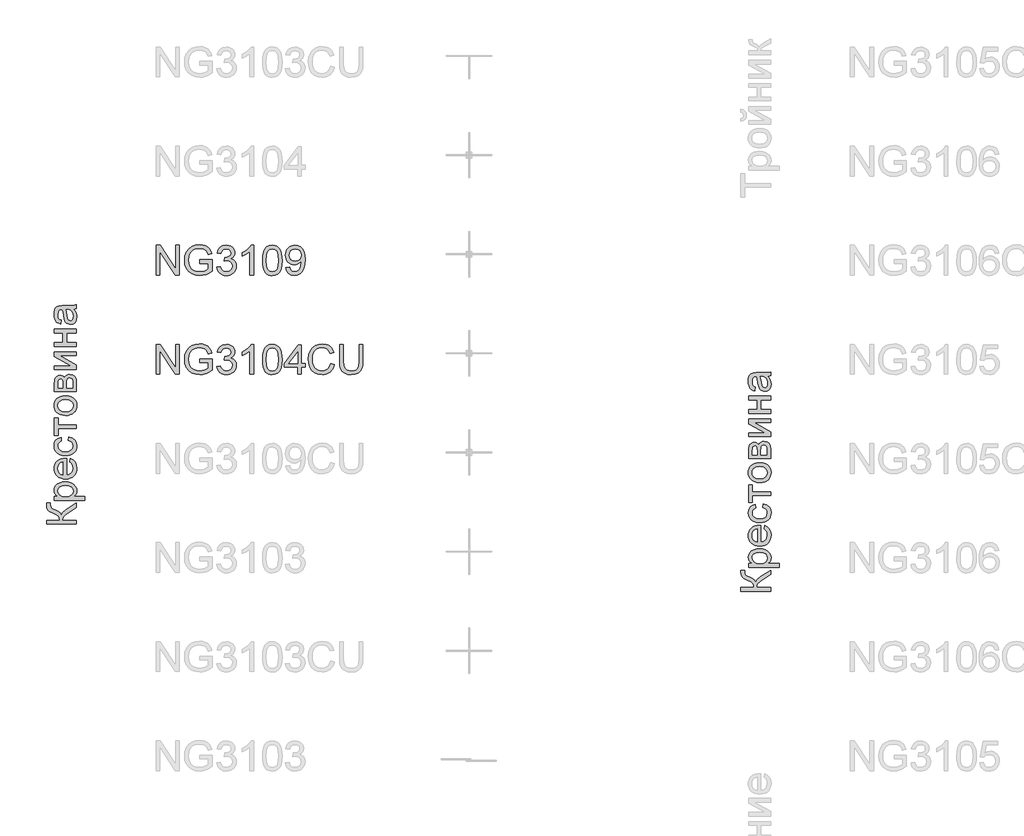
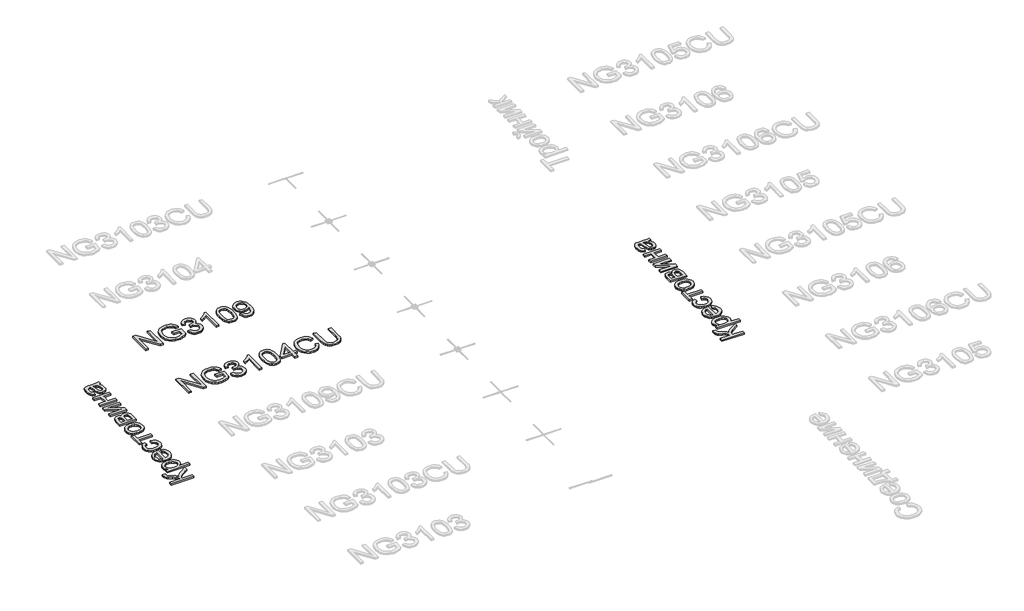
# One storey, part 118 of 124: 4 proxies.
"""IFC4 building model written with IfcOpenShell, lengths in millimetres."""

from ifc_helpers import new_model, si_unit, origin, origin_with_axes, place, context, project, spatial, polyline, outline, extrude, element, save

model = new_model("IFC4")

# Units and contexts
model_context = context("Model", 3, world=origin())
ifc_project = project(units=[si_unit("LENGTHUNIT", "METRE", prefix="MILLI")], contexts=[model_context])

# Site, building, storey
site = spatial("IfcSite", under=ifc_project)
building = spatial("IfcBuilding", under=site)
storey = spatial("IfcBuildingStorey", under=building, Name="Этаж 01", Elevation=0.0)

# Proxies
placement = place(None, origin())
element("IfcBuildingElementProxy", 1, Name="300", ObjectType="300", at=placement, inside=storey, context=model_context, shape_type="SweptSolid", body=[
    extrude(outline(polyline([(55595.8073128, -15708.4503527), (55595.8073128, -15670.7792364), (55727.6562199, -15670.7792364), (55725.1638193, -15645.2758171), (55717.6866178, -15628.6567479), (55700.0926614, -15615.2198581), (55667.2499962, -15599.2629765), (55625.1275078, -15578.4776438), (55613.7139689, -15568.4528594), (55604.2685987, -15554.9331961), (55597.9226343, -15538.8843441), (55595.8073128, -15521.2719935), (55596.2487712, -15496.5503235), (55633.9198875, -15496.5503235), (55633.6991583, -15504.8644566), (55633.4784291, -15513.1785897), (55635.7409034, -15530.4322552), (55642.5283262, -15542.6091493), (55656.7837535, -15553.0937861), (55681.3030885, -15564.9763746), (55711.8372941, -15579.5536986), (55728.5391366, -15591.6478192), (55744.1373332, -15617.6570763), (55750.3453419, -15603.0659566), (55761.1702696, -15588.5760046), (55796.6708822, -15559.899603), (55897.1762432, -15496.5503235), (55897.1762432, -15540.2547045), (55812.2690787, -15593.818323), (55785.0366141, -15614.5024882), (55767.9392983, -15631.5262275), (55758.9169924, -15648.9362429), (55755.9095571, -15670.7792364), (55897.1762432, -15670.7792364), (55897.1762432, -15708.4503527), (55595.8073128, -15708.4503527)])), origin_with_axes(), (0.0, 0.0, 1.0), 20.0),
    extrude(outline(polyline([(55981.9362549, -15468.2969862), (55675.8584349, -15468.2969862), (55675.8584349, -15430.6258699), (55712.7937873, -15430.6258699), (55694.5744314, -15418.3386113), (55681.5606059, -15404.5798247), (55673.7523105, -15388.5401697), (55671.1495454, -15369.4103059), (55674.7915772, -15343.9344778), (55685.7176724, -15321.659223), (55703.2656436, -15303.5226406), (55726.7733031, -15290.4628298), (55754.5299996, -15282.571761), (55784.8250819, -15279.9414047), (55817.0423476, -15282.9120518), (55845.8567049, -15291.8239932), (55869.8058228, -15306.3921202), (55887.4273704, -15326.3313243), (55898.2706922, -15349.5538752), (55901.8851328, -15373.9720427), (55899.4663087, -15391.2900876), (55892.2098363, -15406.7503284), (55881.2561499, -15419.9848832), (55867.7456836, -15430.6258699), (55981.9362549, -15430.6258699), (55981.9362549, -15468.2969862)]), holes=[polyline([(55788.2831727, -15430.6258699), (55822.0547398, -15426.5515768), (55845.6727639, -15414.3286975), (55859.5787033, -15396.2932827), (55864.2140165, -15374.7813831), (55859.4131564, -15352.9199955), (55845.0105763, -15334.4247282), (55820.5280295, -15321.8155728), (55785.4872695, -15317.612521), (55751.8996433, -15321.7144053), (55727.9505255, -15334.020058), (55713.6031276, -15352.0278817), (55708.8206617, -15373.2362787), (55713.9066303, -15394.5274492), (55729.164536, -15413.2250516), (55754.1161324, -15426.2756653), (55788.2831727, -15430.6258699)])]), origin_with_axes(), (0.0, 0.0, 1.0), 20.0),
    extrude(outline(polyline([(55831.2517897, -15082.6095025), (55835.9606792, -15045.6741502), (55863.7909522, -15058.9822814), (55884.594679, -15080.2182695), (55897.5625193, -15108.9038681), (55901.8851328, -15144.5608305), (55900.0204309, -15167.9351328), (55894.4263253, -15188.7618522), (55885.102816, -15207.0409888), (55872.049903, -15222.7725427), (55855.6308697, -15235.4230848), (55836.2089996, -15244.4591863), (55813.7842927, -15249.8808472), (55788.3567491, -15251.6880675), (55762.066982, -15249.8624531), (55738.8950148, -15244.3856099), (55718.8408475, -15235.2575379), (55701.9044802, -15222.4782371), (55688.4491962, -15206.78807), (55678.8382791, -15188.9273991), (55673.0717288, -15168.8962245), (55671.1495454, -15146.6945461), (55673.0671303, -15125.2079383), (55678.819885, -15105.7768711), (55688.4078095, -15088.4013447), (55701.8309038, -15073.0813588), (55718.7304829, -15060.5756702), (55738.747862, -15051.6430356), (55761.883041, -15046.2834547), (55788.1360199, -15044.4969278), (55798.2895629, -15044.717657), (55798.2895629, -15214.0169512), (55826.4877179, -15207.4962428), (55847.2178683, -15192.3487017), (55859.9649794, -15170.4873141), (55864.2140165, -15143.8250665), (55862.2458478, -15123.7754978), (55856.3413418, -15106.8897142), (55846.1326164, -15093.1677158), (55831.2517897, -15082.6095025)]), holes=[polyline([(55760.6184466, -15214.0169512), (55760.6184466, -15082.1680441), (55740.7160307, -15087.2632097), (55726.4789975, -15097.2512059), (55713.2352456, -15119.213761), (55708.8206617, -15146.8416989), (55712.3431318, -15172.2347536), (55722.9105421, -15193.2316184), (55739.3824585, -15207.8273366), (55760.6184466, -15214.0169512)])]), origin_with_axes(), (0.0, 0.0, 1.0), 20.0),
    extrude(outline(polyline([(55817.1251211, -14865.5591253), (55821.8340106, -14827.888009), (55855.3388633, -14838.39104), (55880.6583417, -14858.127909), (55896.578435, -14885.2408121), (55901.8851328, -14917.8719451), (55900.0342265, -14938.9998679), (55894.4815076, -14957.9434914), (55885.2269762, -14974.7028155), (55872.2706322, -14989.2778403), (55855.8561974, -15001.0753561), (55836.2273937, -15009.502153), (55813.384221, -15014.5582312), (55787.3266795, -15016.2435906), (55753.8034327, -15013.364914), (55724.7499521, -15004.7288841), (55701.2882779, -14990.1975453), (55684.54045, -14969.6329418), (55674.4972716, -14945.0308334), (55671.1495454, -14918.3869798), (55675.7480703, -14886.5559902), (55689.5436452, -14861.1077532), (55711.8005059, -14842.8516092), (55741.7828885, -14832.5968986), (55746.491778, -14870.2680149), (55730.0566499, -14877.1014229), (55718.275229, -14887.7424097), (55711.1843035, -14901.6023638), (55708.8206617, -14918.0926743), (55713.4743689, -14942.4372653), (55727.4354907, -14961.7602671), (55751.4581849, -14974.3694225), (55786.2966099, -14978.5724743), (55821.6040844, -14974.461393), (55845.7095521, -14962.1281491), (55859.5879004, -14943.1546352), (55864.2140165, -14919.1227438), (55861.3261428, -14899.615801), (55852.6625218, -14883.6221313), (55838.0024243, -14871.9878632), (55817.1251211, -14865.5591253)])), origin_with_axes(), (0.0, 0.0, 1.0), 20.0),
    extrude(outline(polyline([(55675.8584349, -14813.7613404), (55675.8584349, -14634.823538), (55713.5295512, -14634.823538), (55713.5295512, -14705.456881), (55897.1762432, -14705.456881), (55897.1762432, -14743.1279973), (55713.5295512, -14743.1279973), (55713.5295512, -14813.7613404), (55675.8584349, -14813.7613404)])), origin_with_axes(), (0.0, 0.0, 1.0), 20.0),
    extrude(outline(polyline([(55786.5173391, -14611.2790903), (55757.8547331, -14609.2419437), (55733.1560557, -14603.1305041), (55712.4213067, -14592.9447713), (55695.6504863, -14578.6847455), (55684.9313246, -14564.3281506), (55677.2747806, -14548.4816337), (55672.6808542, -14531.1451947), (55671.1495454, -14512.3188336), (55673.0142473, -14491.5358001), (55678.6083529, -14472.7439279), (55687.9318622, -14455.9432171), (55700.9847752, -14441.1336675), (55717.3256336, -14429.0464447), (55736.5129789, -14420.4127141), (55758.5468111, -14415.2324758), (55783.4271303, -14413.5057297), (55821.4845227, -14416.5591502), (55850.4552298, -14425.7194119), (55872.1510705, -14440.7198003), (55888.3838636, -14461.2936008), (55898.5098155, -14485.7301624), (55901.8851328, -14512.3188336), (55900.0273287, -14533.4053697), (55894.4539165, -14552.3719858), (55885.1648961, -14569.2186819), (55872.1602676, -14583.945458), (55855.6607601, -14595.9039221), (55835.8871028, -14604.4456822), (55812.8392958, -14609.5707383), (55786.5173391, -14611.2790903)]), holes=[polyline([(55786.4437627, -14573.607974), (55820.5372266, -14569.2485723), (55844.8266353, -14556.1703674), (55859.3671712, -14536.4886807), (55864.2140165, -14512.3188336), (55859.33958, -14488.2593511), (55844.7162707, -14468.6144525), (55820.1049652, -14455.5362476), (55785.2665403, -14451.176846), (55752.1663578, -14455.5638388), (55728.2080429, -14468.7248171), (55713.667507, -14488.3973068), (55708.8206617, -14512.3188336), (55713.6491129, -14536.4886807), (55728.1344665, -14556.1703674), (55752.3686929, -14569.2485723), (55786.4437627, -14573.607974)])]), origin_with_axes(), (0.0, 0.0, 1.0), 20.0),
    extrude(outline(polyline([(55675.8584349, -14371.1257238), (55675.8584349, -14288.1315457), (55677.1184308, -14261.450904), (55680.8984183, -14242.6245429), (55688.035329, -14228.7737858), (55699.3660944, -14217.019956), (55714.1273595, -14208.9909315), (55731.555769, -14206.31459), (55745.5996642, -14207.9332708), (55757.7121789, -14212.7893131), (55767.9484954, -14220.9011111), (55776.363796, -14232.2870588), (55784.1904855, -14218.3443312), (55796.7812468, -14206.9767776), (55813.1427985, -14199.4168026), (55832.2818593, -14196.8968109), (55860.995049, -14203.2795635), (55881.2101646, -14218.4546958), (55893.1847236, -14242.4773901), (55897.1762432, -14275.4028287), (55897.1762432, -14371.1257238), (55675.8584349, -14371.1257238)]), holes=[polyline([(55760.6184466, -14333.4546075), (55760.6184466, -14296.2249496), (55758.7054603, -14265.506803), (55751.0535148, -14250.570794), (55744.7259444, -14245.6319782), (55737.2211517, -14243.9857063), (55725.9823568, -14246.87358), (55718.7534756, -14255.5372009), (55714.8355323, -14271.1905798), (55713.5295512, -14295.0477272), (55713.5295512, -14333.4546075), (55760.6184466, -14333.4546075)]), polyline([(55859.5051269, -14333.4546075), (55859.5051269, -14287.2486289), (55857.8036727, -14262.0671064), (55852.69931, -14246.2665747), (55843.4194867, -14237.7868947), (55829.1916505, -14234.5679272), (55819.7646744, -14236.1774109), (55811.0550682, -14241.0058621), (55804.2400542, -14248.4186843), (55800.4968549, -14257.7812811), (55798.2895629, -14290.9274489), (55798.2895629, -14333.4546075), (55859.5051269, -14333.4546075)])]), origin_with_axes(), (0.0, 0.0, 1.0), 20.0),
    extrude(outline(polyline([(55675.8584349, -14149.8079155), (55675.8584349, -14112.1367992), (55844.6426943, -14112.1367992), (55675.8584349, -14019.5776892), (55675.8584349, -13970.8701131), (55897.1762432, -13970.8701131), (55897.1762432, -14008.5412294), (55729.4220534, -14008.5412294), (55897.1762432, -14100.5117282), (55897.1762432, -14149.8079155), (55675.8584349, -14149.8079155)])), origin_with_axes(), (0.0, 0.0, 1.0), 20.0),
    extrude(outline(polyline([(55675.8584349, -13914.3634386), (55675.8584349, -13876.6923223), (55760.6184466, -13876.6923223), (55760.6184466, -13777.805642), (55675.8584349, -13777.805642), (55675.8584349, -13740.1345257), (55897.1762432, -13740.1345257), (55897.1762432, -13777.805642), (55798.2895629, -13777.805642), (55798.2895629, -13876.6923223), (55897.1762432, -13876.6923223), (55897.1762432, -13914.3634386), (55675.8584349, -13914.3634386)])), origin_with_axes(), (0.0, 0.0, 1.0), 20.0),
    extrude(outline(polyline([(55868.922906, -13542.3611651), (55884.3555557, -13560.3597917), (55894.4539165, -13578.8918472), (55900.0273287, -13598.3803959), (55901.8851328, -13619.2485021), (55897.4153665, -13650.7300038), (55884.0060678, -13673.9525548), (55863.6437994, -13688.2723614), (55838.315124, -13693.0456303), (55822.6985333, -13691.2430085), (55808.5166824, -13685.8351432), (55796.3765766, -13677.493419), (55786.8852211, -13666.8892205), (55774.524386, -13640.5120814), (55768.8590033, -13607.9177366), (55762.899315, -13569.4004917), (55755.9095571, -13542.5818943), (55747.5218476, -13542.3611651), (55730.7096404, -13544.9547332), (55719.7099688, -13552.7354374), (55711.5429885, -13570.1362557), (55708.8206617, -13594.3796792), (55710.6324805, -13616.8204809), (55716.067937, -13632.4922539), (55726.1203125, -13643.1792259), (55741.7828885, -13650.6656245), (55737.0739989, -13688.3367408), (55716.4726072, -13681.7976383), (55700.2857994, -13672.0395684), (55687.9065703, -13658.1520231), (55678.7279145, -13639.2244944), (55673.0441377, -13616.0755199), (55671.1495454, -13589.5236369), (55672.8234085, -13564.0570058), (55677.8449977, -13543.8694813), (55685.3957757, -13528.6483637), (55694.6572049, -13518.0809534), (55706.107532, -13511.0728014), (55720.2250036, -13506.5294588), (55753.1872303, -13504.6900488), (55800.0553965, -13504.6900488), (55865.5016035, -13502.7770624), (55897.1762432, -13495.2722697), (55897.1762432, -13532.943386), (55868.922906, -13542.3611651)]), holes=[polyline([(55793.5806734, -13542.3611651), (55805.132168, -13603.1352707), (55811.2390092, -13635.5456745), (55821.171823, -13650.2241661), (55835.6663736, -13655.374514), (55846.8683804, -13652.5694138), (55856.0470362, -13644.1541132), (55862.1722714, -13630.3125531), (55864.2140165, -13611.2286746), (55861.9607392, -13590.9951649), (55855.2009076, -13573.1160999), (55845.2405026, -13558.6215493), (55833.3855053, -13548.5415826), (55821.171823, -13544.0718164), (55804.2492513, -13542.5818943), (55793.5806734, -13542.3611651)])]), origin_with_axes(), (0.0, 0.0, 1.0), 20.0),
])
element("IfcBuildingElementProxy", 2, Name="300", ObjectType="300", at=placement, inside=storey, context=model_context, shape_type="SweptSolid", body=[
    extrude(outline(polyline([(48595.8073128, -15032.4753677), (48595.8073128, -14994.8042514), (48727.6562199, -14994.8042514), (48725.1638193, -14969.3008321), (48717.6866178, -14952.6817629), (48700.0926614, -14939.244873), (48667.2499962, -14923.2879915), (48625.1275078, -14902.5026588), (48613.7139689, -14892.4778744), (48604.2685987, -14878.9582111), (48597.9226343, -14862.9093591), (48595.8073128, -14845.2970085), (48596.2487712, -14820.5753385), (48633.9198875, -14820.5753385), (48633.6991583, -14828.8894715), (48633.4784291, -14837.2036046), (48635.7409034, -14854.4572702), (48642.5283262, -14866.6341643), (48656.7837535, -14877.1188011), (48681.3030885, -14889.0013896), (48711.8372941, -14903.5787136), (48728.5391366, -14915.6728342), (48744.1373332, -14941.6820913), (48750.3453419, -14927.0909716), (48761.1702696, -14912.6010195), (48796.6708822, -14883.924618), (48897.1762432, -14820.5753385), (48897.1762432, -14864.2797195), (48812.2690787, -14917.843338), (48785.0366141, -14938.5275032), (48767.9392983, -14955.5512425), (48758.9169924, -14972.9612579), (48755.9095571, -14994.8042514), (48897.1762432, -14994.8042514), (48897.1762432, -15032.4753677), (48595.8073128, -15032.4753677)])), origin_with_axes(), (0.0, 0.0, 1.0), 20.0),
    extrude(outline(polyline([(48981.9362549, -14792.3220012), (48675.8584349, -14792.3220012), (48675.8584349, -14754.6508849), (48712.7937873, -14754.6508849), (48694.5744314, -14742.3636263), (48681.5606059, -14728.6048397), (48673.7523105, -14712.5651847), (48671.1495454, -14693.4353209), (48674.7915772, -14667.9594928), (48685.7176724, -14645.6842379), (48703.2656436, -14627.5476556), (48726.7733031, -14614.4878448), (48754.5299996, -14606.596776), (48784.8250819, -14603.9664197), (48817.0423476, -14606.9370668), (48845.8567049, -14615.8490081), (48869.8058228, -14630.4171351), (48887.4273704, -14650.3563393), (48898.2706922, -14673.5788902), (48901.8851328, -14697.9970577), (48899.4663087, -14715.3151026), (48892.2098363, -14730.7753434), (48881.2561499, -14744.0098982), (48867.7456836, -14754.6508849), (48981.9362549, -14754.6508849), (48981.9362549, -14792.3220012)]), holes=[polyline([(48788.2831727, -14754.6508849), (48822.0547398, -14750.5765918), (48845.6727639, -14738.3537125), (48859.5787033, -14720.3182977), (48864.2140165, -14698.8063981), (48859.4131564, -14676.9450105), (48845.0105763, -14658.4497432), (48820.5280295, -14645.8405878), (48785.4872695, -14641.637536), (48751.8996433, -14645.7394202), (48727.9505255, -14658.045073), (48713.6031276, -14676.0528967), (48708.8206617, -14697.2612937), (48713.9066303, -14718.5524641), (48729.164536, -14737.2500665), (48754.1161324, -14750.3006803), (48788.2831727, -14754.6508849)])]), origin_with_axes(), (0.0, 0.0, 1.0), 20.0),
    extrude(outline(polyline([(48831.2517897, -14406.6345175), (48835.9606792, -14369.6991652), (48863.7909522, -14383.0072963), (48884.594679, -14404.2432845), (48897.5625193, -14432.9288831), (48901.8851328, -14468.5858455), (48900.0204309, -14491.9601477), (48894.4263253, -14512.7868672), (48885.102816, -14531.0660038), (48872.049903, -14546.7975576), (48855.6308697, -14559.4480998), (48836.2089996, -14568.4842013), (48813.7842927, -14573.9058622), (48788.3567491, -14575.7130825), (48762.066982, -14573.8874681), (48738.8950148, -14568.4106249), (48718.8408475, -14559.2825529), (48701.9044802, -14546.503252), (48688.4491962, -14530.813085), (48678.8382791, -14512.9524141), (48673.0717288, -14492.9212395), (48671.1495454, -14470.719561), (48673.0671303, -14449.2329533), (48678.819885, -14429.8018861), (48688.4078095, -14412.4263596), (48701.8309038, -14397.1063738), (48718.7304829, -14384.6006852), (48738.747862, -14375.6680505), (48761.883041, -14370.3084697), (48788.1360199, -14368.5219428), (48798.2895629, -14368.742672), (48798.2895629, -14538.0419662), (48826.4877179, -14531.5212578), (48847.2178683, -14516.3737166), (48859.9649794, -14494.5123291), (48864.2140165, -14467.8500815), (48862.2458478, -14447.8005127), (48856.3413418, -14430.9147292), (48846.1326164, -14417.1927307), (48831.2517897, -14406.6345175)]), holes=[polyline([(48760.6184466, -14538.0419662), (48760.6184466, -14406.1930591), (48740.7160307, -14411.2882247), (48726.4789975, -14421.2762209), (48713.2352456, -14443.238776), (48708.8206617, -14470.8667138), (48712.3431318, -14496.2597686), (48722.9105421, -14517.2566334), (48739.3824585, -14531.8523516), (48760.6184466, -14538.0419662)])]), origin_with_axes(), (0.0, 0.0, 1.0), 20.0),
    extrude(outline(polyline([(48817.1251211, -14189.5841403), (48821.8340106, -14151.913024), (48855.3388633, -14162.416055), (48880.6583417, -14182.152924), (48896.578435, -14209.2658271), (48901.8851328, -14241.89696), (48900.0342265, -14263.0248829), (48894.4815076, -14281.9685064), (48885.2269762, -14298.7278305), (48872.2706322, -14313.3028553), (48855.8561974, -14325.100371), (48836.2273937, -14333.527168), (48813.384221, -14338.5832462), (48787.3266795, -14340.2686056), (48753.8034327, -14337.3899289), (48724.7499521, -14328.7538991), (48701.2882779, -14314.2225603), (48684.54045, -14293.6579568), (48674.4972716, -14269.0558483), (48671.1495454, -14242.4119948), (48675.7480703, -14210.5810052), (48689.5436452, -14185.1327682), (48711.8005059, -14166.8766242), (48741.7828885, -14156.6219136), (48746.491778, -14194.2930299), (48730.0566499, -14201.1264379), (48718.275229, -14211.7674246), (48711.1843035, -14225.6273788), (48708.8206617, -14242.1176892), (48713.4743689, -14266.4622803), (48727.4354907, -14285.7852821), (48751.4581849, -14298.3944375), (48786.2966099, -14302.5974892), (48821.6040844, -14298.486408), (48845.7095521, -14286.1531641), (48859.5879004, -14267.1796502), (48864.2140165, -14243.1477588), (48861.3261428, -14223.640816), (48852.6625218, -14207.6471463), (48838.0024243, -14196.0128782), (48817.1251211, -14189.5841403)])), origin_with_axes(), (0.0, 0.0, 1.0), 20.0),
    extrude(outline(polyline([(48675.8584349, -14137.7863554), (48675.8584349, -13958.848553), (48713.5295512, -13958.848553), (48713.5295512, -14029.481896), (48897.1762432, -14029.481896), (48897.1762432, -14067.1530123), (48713.5295512, -14067.1530123), (48713.5295512, -14137.7863554), (48675.8584349, -14137.7863554)])), origin_with_axes(), (0.0, 0.0, 1.0), 20.0),
    extrude(outline(polyline([(48786.5173391, -13935.3041053), (48757.8547331, -13933.2669587), (48733.1560557, -13927.1555191), (48712.4213067, -13916.9697863), (48695.6504863, -13902.7097605), (48684.9313246, -13888.3531656), (48677.2747806, -13872.5066487), (48672.6808542, -13855.1702097), (48671.1495454, -13836.3438486), (48673.0142473, -13815.5608151), (48678.6083529, -13796.7689429), (48687.9318622, -13779.9682321), (48700.9847752, -13765.1586825), (48717.3256336, -13753.0714597), (48736.5129789, -13744.4377291), (48758.5468111, -13739.2574908), (48783.4271303, -13737.5307447), (48821.4845227, -13740.5841652), (48850.4552298, -13749.7444269), (48872.1510705, -13764.7448152), (48888.3838636, -13785.3186158), (48898.5098155, -13809.7551774), (48901.8851328, -13836.3438486), (48900.0273287, -13857.4303847), (48894.4539165, -13876.3970008), (48885.1648961, -13893.2436969), (48872.1602676, -13907.970473), (48855.6607601, -13919.9289371), (48835.8871028, -13928.4706972), (48812.8392958, -13933.5957532), (48786.5173391, -13935.3041053)]), holes=[polyline([(48786.4437627, -13897.632989), (48820.5372266, -13893.2735873), (48844.8266353, -13880.1953824), (48859.3671712, -13860.5136956), (48864.2140165, -13836.3438486), (48859.33958, -13812.2843661), (48844.7162707, -13792.6394675), (48820.1049652, -13779.5612626), (48785.2665403, -13775.201861), (48752.1663578, -13779.5888538), (48728.2080429, -13792.7498321), (48713.667507, -13812.4223218), (48708.8206617, -13836.3438486), (48713.6491129, -13860.5136956), (48728.1344665, -13880.1953824), (48752.3686929, -13893.2735873), (48786.4437627, -13897.632989)])]), origin_with_axes(), (0.0, 0.0, 1.0), 20.0),
    extrude(outline(polyline([(48675.8584349, -13695.1507388), (48675.8584349, -13612.1565607), (48677.1184308, -13585.475919), (48680.8984183, -13566.6495579), (48688.035329, -13552.7988008), (48699.3660944, -13541.044971), (48714.1273595, -13533.0159465), (48731.555769, -13530.339605), (48745.5996642, -13531.9582858), (48757.7121789, -13536.8143281), (48767.9484954, -13544.9261261), (48776.363796, -13556.3120738), (48784.1904855, -13542.3693462), (48796.7812468, -13531.0017926), (48813.1427985, -13523.4418176), (48832.2818593, -13520.9218259), (48860.995049, -13527.3045785), (48881.2101646, -13542.4797108), (48893.1847236, -13566.5024051), (48897.1762432, -13599.4278437), (48897.1762432, -13695.1507388), (48675.8584349, -13695.1507388)]), holes=[polyline([(48760.6184466, -13657.4796225), (48760.6184466, -13620.2499646), (48758.7054603, -13589.531818), (48751.0535148, -13574.595809), (48744.7259444, -13569.6569932), (48737.2211517, -13568.0107213), (48725.9823568, -13570.8985949), (48718.7534756, -13579.5622159), (48714.8355323, -13595.2155948), (48713.5295512, -13619.0727422), (48713.5295512, -13657.4796225), (48760.6184466, -13657.4796225)]), polyline([(48859.5051269, -13657.4796225), (48859.5051269, -13611.2736439), (48857.8036727, -13586.0921213), (48852.69931, -13570.2915896), (48843.4194867, -13561.8119097), (48829.1916505, -13558.5929422), (48819.7646744, -13560.2024259), (48811.0550682, -13565.0308771), (48804.2400542, -13572.4436993), (48800.4968549, -13581.8062961), (48798.2895629, -13614.9524639), (48798.2895629, -13657.4796225), (48859.5051269, -13657.4796225)])]), origin_with_axes(), (0.0, 0.0, 1.0), 20.0),
    extrude(outline(polyline([(48675.8584349, -13473.8329305), (48675.8584349, -13436.1618142), (48844.6426943, -13436.1618142), (48675.8584349, -13343.6027042), (48675.8584349, -13294.8951281), (48897.1762432, -13294.8951281), (48897.1762432, -13332.5662444), (48729.4220534, -13332.5662444), (48897.1762432, -13424.5367432), (48897.1762432, -13473.8329305), (48675.8584349, -13473.8329305)])), origin_with_axes(), (0.0, 0.0, 1.0), 20.0),
    extrude(outline(polyline([(48675.8584349, -13238.3884536), (48675.8584349, -13200.7173373), (48760.6184466, -13200.7173373), (48760.6184466, -13101.830657), (48675.8584349, -13101.830657), (48675.8584349, -13064.1595407), (48897.1762432, -13064.1595407), (48897.1762432, -13101.830657), (48798.2895629, -13101.830657), (48798.2895629, -13200.7173373), (48897.1762432, -13200.7173373), (48897.1762432, -13238.3884536), (48675.8584349, -13238.3884536)])), origin_with_axes(), (0.0, 0.0, 1.0), 20.0),
    extrude(outline(polyline([(48868.922906, -12866.3861801), (48884.3555557, -12884.3848067), (48894.4539165, -12902.9168622), (48900.0273287, -12922.4054109), (48901.8851328, -12943.2735171), (48897.4153665, -12974.7550188), (48884.0060678, -12997.9775698), (48863.6437994, -13012.2973764), (48838.315124, -13017.0706453), (48822.6985333, -13015.2680235), (48808.5166824, -13009.8601582), (48796.3765766, -13001.518434), (48786.8852211, -12990.9142354), (48774.524386, -12964.5370964), (48768.8590033, -12931.9427516), (48762.899315, -12893.4255067), (48755.9095571, -12866.6069093), (48747.5218476, -12866.3861801), (48730.7096404, -12868.9797481), (48719.7099688, -12876.7604523), (48711.5429885, -12894.1612707), (48708.8206617, -12918.4046942), (48710.6324805, -12940.8454959), (48716.067937, -12956.5172689), (48726.1203125, -12967.2042409), (48741.7828885, -12974.6906395), (48737.0739989, -13012.3617558), (48716.4726072, -13005.8226533), (48700.2857994, -12996.0645834), (48687.9065703, -12982.1770381), (48678.7279145, -12963.2495094), (48673.0441377, -12940.1005349), (48671.1495454, -12913.5486519), (48672.8234085, -12888.0820207), (48677.8449977, -12867.8944963), (48685.3957757, -12852.6733787), (48694.6572049, -12842.1059684), (48706.107532, -12835.0978164), (48720.2250036, -12830.5544737), (48753.1872303, -12828.7150638), (48800.0553965, -12828.7150638), (48865.5016035, -12826.8020774), (48897.1762432, -12819.2972847), (48897.1762432, -12856.968401), (48868.922906, -12866.3861801)]), holes=[polyline([(48793.5806734, -12866.3861801), (48805.132168, -12927.1602857), (48811.2390092, -12959.5706895), (48821.171823, -12974.2491811), (48835.6663736, -12979.399529), (48846.8683804, -12976.5944288), (48856.0470362, -12968.1791281), (48862.1722714, -12954.3375681), (48864.2140165, -12935.2536896), (48861.9607392, -12915.0201798), (48855.2009076, -12897.1411149), (48845.2405026, -12882.6465643), (48833.3855053, -12872.5665976), (48821.171823, -12868.0968314), (48804.2492513, -12866.6069093), (48793.5806734, -12866.3861801)])]), origin_with_axes(), (0.0, 0.0, 1.0), 20.0),
])
element("IfcBuildingElementProxy", 3, Name="300", ObjectType="300", at=placement, inside=storey, context=model_context, shape_type="SweptSolid", body=[
    extrude(outline(polyline([(49699.8220677, -12519.5141033), (49699.8220677, -12218.1451728), (49740.1419344, -12218.1451728), (49897.5954283, -12456.9005877), (49897.5954283, -12218.1451728), (49935.2665446, -12218.1451728), (49935.2665446, -12519.5141033), (49894.9466779, -12519.5141033), (49737.493184, -12280.685112), (49737.493184, -12519.5141033), (49699.8220677, -12519.5141033)])), origin_with_axes(), (0.0, 0.0, 1.0), 20.0),
    extrude(outline(polyline([(50142.4576843, -12401.7918648), (50142.4576843, -12364.1207485), (50264.8888123, -12364.1207485), (50264.8888123, -12476.7662154), (50235.1363559, -12497.4595776), (50204.4458005, -12512.3036162), (50172.8907223, -12521.2431486), (50140.5446979, -12524.2229928), (50098.2842537, -12519.4865121), (50060.0889056, -12505.27707), (50028.3590835, -12482.0913073), (50005.4952175, -12450.4258646), (49991.6720515, -12412.4420486), (49987.0643295, -12370.301166), (49991.6536574, -12327.8567808), (50005.4216411, -12288.3738457), (50027.7980634, -12255.2552691), (50058.2127074, -12231.9039594), (50095.2584243, -12218.0532023), (50137.5280656, -12213.4362833), (50168.5589118, -12216.1126248), (50196.4627612, -12224.1416493), (50219.9612236, -12236.9439428), (50237.7759092, -12253.9400909), (50250.9552817, -12275.9486313), (50260.5478047, -12303.7881013), (50225.8197444, -12313.5737624), (50218.0666313, -12293.7173317), (50208.6396552, -12278.7353374), (50196.1684556, -12267.4413602), (50179.282672, -12258.6489805), (50159.1503298, -12252.9927948), (50136.9394544, -12251.1073996), (50110.9393944, -12253.1399476), (50088.7101248, -12259.2375917), (50070.3344191, -12268.6369766), (50055.8950508, -12280.5747474), (50036.5076697, -12309.6006368), (50027.6785018, -12338.037915), (50024.7354458, -12368.7560616), (50028.27631, -12404.780906), (50038.8989026, -12434.4229978), (50056.2813269, -12457.4708048), (50080.1016861, -12473.7127949), (50107.9779443, -12483.3421061), (50137.5280656, -12486.5518765), (50163.6200961, -12484.1330524), (50189.0683331, -12476.87658), (50211.1688439, -12466.8793868), (50227.217696, -12456.2384001), (50227.217696, -12401.7918648), (50142.4576843, -12401.7918648)])), origin_with_axes(), (0.0, 0.0, 1.0), 20.0),
    extrude(outline(polyline([(50311.9777077, -12439.4629811), (50349.648824, -12434.7540916), (50358.0825187, -12458.427298), (50370.4341567, -12474.4117707), (50387.3107432, -12483.51685), (50409.3192836, -12486.5518765), (50435.1445997, -12482.3764158), (50455.0838038, -12469.8500339), (50467.8309149, -12451.1616286), (50472.079952, -12428.5000977), (50467.8677031, -12406.988198), (50455.2309566, -12389.5413944), (50436.1010928, -12377.9807027), (50412.4094924, -12374.1271388), (50385.9955651, -12378.2474171), (50390.1894198, -12340.5763008), (50396.2226846, -12341.0177592), (50418.792245, -12338.3138265), (50438.9705724, -12330.2020285), (50453.2076056, -12316.4800301), (50457.9532834, -12296.9454962), (50454.5135867, -12280.6759149), (50444.1944967, -12267.4781484), (50428.4491473, -12258.7317539), (50408.7306724, -12255.8162891), (50388.9754093, -12258.7593451), (50372.8253897, -12267.588513), (50361.0347717, -12282.3037928), (50354.3577135, -12302.9051845), (50316.6865972, -12298.196295), (50327.7782394, -12264.3695455), (50347.5151084, -12239.1144465), (50374.5176468, -12223.3874912), (50407.4062972, -12218.1451728), (50431.0887007, -12220.7295438), (50452.8397236, -12228.4826569), (50471.1786411, -12240.7147332), (50484.624728, -12256.7359941), (50492.8744817, -12275.1944732), (50495.6243997, -12294.7382042), (50493.0124375, -12312.948363), (50485.176551, -12329.4662646), (50472.2271048, -12343.5377509), (50454.2744634, -12354.4086638), (50477.8556993, -12363.9368075), (50495.3300941, -12380.1604035), (50506.1458247, -12402.196535), (50509.7510683, -12429.1622852), (50507.9484465, -12448.2737549), (50502.5405812, -12465.8769084), (50493.5274723, -12481.9717457), (50480.9091199, -12496.5582668), (50465.536251, -12508.6615844), (50448.2595928, -12517.3068113), (50429.0791453, -12522.4939474), (50407.9949084, -12524.2229928), (50388.9386211, -12522.7468663), (50371.5745909, -12518.3184868), (50355.9028179, -12510.9378542), (50341.9233021, -12500.6049687), (50330.201662, -12487.9268354), (50321.3035162, -12473.5104598), (50315.2288648, -12457.3558417), (50311.9777077, -12439.4629811)])), origin_with_axes(), (0.0, 0.0, 1.0), 20.0),
    extrude(outline(polyline([(50683.9799812, -12519.5141033), (50646.3088649, -12519.5141033), (50646.3088649, -12284.6582375), (50610.6243114, -12310.0788834), (50570.9666323, -12329.0983826), (50570.9666323, -12293.4874054), (50600.5535417, -12277.3925681), (50626.1857197, -12258.2443103), (50646.3916383, -12237.8820419), (50659.6997695, -12218.1451728), (50683.9799812, -12218.1451728), (50683.9799812, -12519.5141033)])), origin_with_axes(), (0.0, 0.0, 1.0), 20.0),
    extrude(outline(polyline([(50773.4488824, -12371.2576592), (50776.2171944, -12323.0191326), (50784.5221305, -12284.5478729), (50798.2809171, -12255.2552691), (50817.4107808, -12234.5527098), (50842.0496775, -12222.2470571), (50872.3355627, -12218.1451728), (50895.5489166, -12220.573194), (50916.3342493, -12227.8572575), (50933.7166736, -12239.7122548), (50946.7213021, -12255.8530773), (50956.5437514, -12276.1417694), (50964.3796379, -12300.4403751), (50969.5115917, -12331.2964775), (50971.222243, -12371.2576592), (50968.4815222, -12419.2202743), (50960.2593596, -12457.5995635), (50946.5833464, -12486.9197585), (50927.4810738, -12507.7050912), (50902.7869949, -12520.0935174), (50872.3355627, -12524.2229928), (50851.5870182, -12522.4295681), (50833.1929184, -12517.0492939), (50817.1532634, -12508.0821703), (50803.4680532, -12495.5281972), (50790.334666, -12472.8344766), (50780.9536751, -12444.5581467), (50775.3250806, -12410.6992076), (50773.4488824, -12371.2576592)]), holes=[polyline([(50811.1199987, -12371.1840828), (50815.5345827, -12430.4406752), (50821.0528126, -12450.7086739), (50828.7783345, -12464.7364742), (50848.4968094, -12481.0980259), (50872.3355627, -12486.5518765), (50896.174316, -12481.0796318), (50915.892791, -12464.6628978), (50923.6183128, -12450.6121048), (50929.1365428, -12430.3487047), (50933.5511267, -12371.1840828), (50929.2836956, -12313.2610627), (50923.9494066, -12293.0597426), (50916.4814021, -12278.6985492), (50896.7997154, -12261.5368541), (50871.8941043, -12255.8162891), (50848.3128684, -12260.8562725), (50829.3669457, -12275.9762225), (50821.3839064, -12291.6112072), (50815.6817355, -12312.6908456), (50811.1199987, -12371.1840828)])]), origin_with_axes(), (0.0, 0.0, 1.0), 20.0),
    extrude(outline(polyline([(51008.8933593, -12444.1718706), (51046.5644756, -12439.4629811), (51053.0024106, -12460.8461221), (51063.4870474, -12475.405052), (51077.7608688, -12483.7651704), (51095.5663574, -12486.5518765), (51111.541633, -12484.7584518), (51126.0637748, -12479.3781776), (51138.1303042, -12470.9996651), (51146.7387429, -12460.2115256), (51159.0627898, -12427.4700281), (51164.5074433, -12383.765647), (51164.2867141, -12376.4080071), (51151.2361003, -12392.3372975), (51134.1571787, -12404.95565), (51114.2823539, -12413.1778126), (51092.8440306, -12415.9185334), (51074.9488708, -12414.2446703), (51058.4930493, -12409.2230811), (51043.4765661, -12400.8537657), (51029.8994213, -12389.1367242), (51018.64913, -12374.6835603), (51010.6132077, -12358.1058779), (51005.7916543, -12339.4036769), (51004.1844698, -12318.5769575), (51005.8698292, -12297.0558608), (51010.9259074, -12277.742056), (51019.3527043, -12260.6355433), (51031.15022, -12245.7363225), (51045.4861215, -12233.6651945), (51061.5280758, -12225.0429602), (51079.2760828, -12219.8696197), (51098.7301426, -12218.1451728), (51126.8271299, -12222.0815102), (51152.4041256, -12233.8905222), (51173.7964637, -12252.9835978), (51189.339478, -12278.7721256), (51198.8032423, -12314.4198909), (51201.9578304, -12363.0906789), (51198.8124393, -12414.6953258), (51189.3762662, -12454.5829311), (51173.7320843, -12484.5561167), (51151.9626673, -12506.4175042), (51125.0061141, -12519.7716207), (51093.8005238, -12524.2229928), (51061.5924551, -12518.9714773), (51035.8958978, -12503.2169309), (51017.9248623, -12477.9526349), (51008.8933593, -12444.1718706)]), holes=[polyline([(51164.2867141, -12317.6940407), (51160.221618, -12292.1630302), (51148.0263299, -12272.5181317), (51129.0988013, -12259.9917498), (51104.8369837, -12255.8162891), (51079.6738552, -12260.3136465), (51059.5139219, -12273.8057187), (51046.27017, -12294.4530957), (51041.8555861, -12320.4163675), (51046.0310467, -12343.6941007), (51058.5574287, -12362.1709739), (51078.2207213, -12374.2283063), (51103.8069141, -12378.2474171), (51127.8755936, -12374.2283063), (51147.2537777, -12362.1709739), (51160.02848, -12343.013519), (51164.2867141, -12317.6940407)])]), origin_with_axes(), (0.0, 0.0, 1.0), 20.0),
])
element("IfcBuildingElementProxy", 4, Name="300", ObjectType="300", at=placement, inside=storey, context=model_context, shape_type="SweptSolid", body=[
    extrude(outline(polyline([(49699.8220677, -13519.5141033), (49699.8220677, -13218.1451728), (49740.1419344, -13218.1451728), (49897.5954283, -13456.9005877), (49897.5954283, -13218.1451728), (49935.2665446, -13218.1451728), (49935.2665446, -13519.5141033), (49894.9466779, -13519.5141033), (49737.493184, -13280.685112), (49737.493184, -13519.5141033), (49699.8220677, -13519.5141033)])), origin_with_axes(), (0.0, 0.0, 1.0), 20.0),
    extrude(outline(polyline([(50142.4576843, -13401.7918648), (50142.4576843, -13364.1207485), (50264.8888123, -13364.1207485), (50264.8888123, -13476.7662154), (50235.1363559, -13497.4595776), (50204.4458005, -13512.3036162), (50172.8907223, -13521.2431486), (50140.5446979, -13524.2229928), (50098.2842537, -13519.4865121), (50060.0889056, -13505.27707), (50028.3590835, -13482.0913073), (50005.4952175, -13450.4258646), (49991.6720515, -13412.4420486), (49987.0643295, -13370.301166), (49991.6536574, -13327.8567808), (50005.4216411, -13288.3738457), (50027.7980634, -13255.2552691), (50058.2127074, -13231.9039594), (50095.2584243, -13218.0532023), (50137.5280656, -13213.4362833), (50168.5589118, -13216.1126248), (50196.4627612, -13224.1416493), (50219.9612236, -13236.9439428), (50237.7759092, -13253.9400909), (50250.9552817, -13275.9486313), (50260.5478047, -13303.7881013), (50225.8197444, -13313.5737624), (50218.0666313, -13293.7173317), (50208.6396552, -13278.7353374), (50196.1684556, -13267.4413602), (50179.282672, -13258.6489805), (50159.1503298, -13252.9927948), (50136.9394544, -13251.1073996), (50110.9393944, -13253.1399476), (50088.7101248, -13259.2375917), (50070.3344191, -13268.6369766), (50055.8950508, -13280.5747474), (50036.5076697, -13309.6006368), (50027.6785018, -13338.037915), (50024.7354458, -13368.7560616), (50028.27631, -13404.780906), (50038.8989026, -13434.4229978), (50056.2813269, -13457.4708048), (50080.1016861, -13473.7127949), (50107.9779443, -13483.3421061), (50137.5280656, -13486.5518765), (50163.6200961, -13484.1330524), (50189.0683331, -13476.87658), (50211.1688439, -13466.8793868), (50227.217696, -13456.2384001), (50227.217696, -13401.7918648), (50142.4576843, -13401.7918648)])), origin_with_axes(), (0.0, 0.0, 1.0), 20.0),
    extrude(outline(polyline([(50311.9777077, -13439.4629811), (50349.648824, -13434.7540916), (50358.0825187, -13458.427298), (50370.4341567, -13474.4117707), (50387.3107432, -13483.51685), (50409.3192836, -13486.5518765), (50435.1445997, -13482.3764158), (50455.0838038, -13469.8500339), (50467.8309149, -13451.1616286), (50472.079952, -13428.5000977), (50467.8677031, -13406.988198), (50455.2309566, -13389.5413944), (50436.1010928, -13377.9807027), (50412.4094924, -13374.1271388), (50385.9955651, -13378.2474171), (50390.1894198, -13340.5763008), (50396.2226846, -13341.0177592), (50418.792245, -13338.3138265), (50438.9705724, -13330.2020285), (50453.2076056, -13316.4800301), (50457.9532834, -13296.9454962), (50454.5135867, -13280.6759149), (50444.1944967, -13267.4781484), (50428.4491473, -13258.7317539), (50408.7306724, -13255.8162891), (50388.9754093, -13258.7593451), (50372.8253897, -13267.588513), (50361.0347717, -13282.3037928), (50354.3577135, -13302.9051845), (50316.6865972, -13298.196295), (50327.7782394, -13264.3695455), (50347.5151084, -13239.1144465), (50374.5176468, -13223.3874912), (50407.4062972, -13218.1451728), (50431.0887007, -13220.7295438), (50452.8397236, -13228.4826569), (50471.1786411, -13240.7147332), (50484.624728, -13256.7359941), (50492.8744817, -13275.1944732), (50495.6243997, -13294.7382042), (50493.0124375, -13312.948363), (50485.176551, -13329.4662646), (50472.2271048, -13343.5377509), (50454.2744634, -13354.4086638), (50477.8556993, -13363.9368075), (50495.3300941, -13380.1604035), (50506.1458247, -13402.196535), (50509.7510683, -13429.1622852), (50507.9484465, -13448.2737549), (50502.5405812, -13465.8769084), (50493.5274723, -13481.9717457), (50480.9091199, -13496.5582668), (50465.536251, -13508.6615844), (50448.2595928, -13517.3068113), (50429.0791453, -13522.4939474), (50407.9949084, -13524.2229928), (50388.9386211, -13522.7468663), (50371.5745909, -13518.3184868), (50355.9028179, -13510.9378542), (50341.9233021, -13500.6049687), (50330.201662, -13487.9268354), (50321.3035162, -13473.5104598), (50315.2288648, -13457.3558417), (50311.9777077, -13439.4629811)])), origin_with_axes(), (0.0, 0.0, 1.0), 20.0),
    extrude(outline(polyline([(50683.9799812, -13519.5141033), (50646.3088649, -13519.5141033), (50646.3088649, -13284.6582375), (50610.6243114, -13310.0788834), (50570.9666323, -13329.0983826), (50570.9666323, -13293.4874054), (50600.5535417, -13277.3925681), (50626.1857197, -13258.2443103), (50646.3916383, -13237.8820419), (50659.6997695, -13218.1451728), (50683.9799812, -13218.1451728), (50683.9799812, -13519.5141033)])), origin_with_axes(), (0.0, 0.0, 1.0), 20.0),
    extrude(outline(polyline([(50773.4488824, -13371.2576592), (50776.2171944, -13323.0191326), (50784.5221305, -13284.5478729), (50798.2809171, -13255.2552691), (50817.4107808, -13234.5527098), (50842.0496775, -13222.2470571), (50872.3355627, -13218.1451728), (50895.5489166, -13220.573194), (50916.3342493, -13227.8572575), (50933.7166736, -13239.7122548), (50946.7213021, -13255.8530773), (50956.5437514, -13276.1417694), (50964.3796379, -13300.4403751), (50969.5115917, -13331.2964775), (50971.222243, -13371.2576592), (50968.4815222, -13419.2202743), (50960.2593596, -13457.5995635), (50946.5833464, -13486.9197585), (50927.4810738, -13507.7050912), (50902.7869949, -13520.0935174), (50872.3355627, -13524.2229928), (50851.5870182, -13522.4295681), (50833.1929184, -13517.0492939), (50817.1532634, -13508.0821703), (50803.4680532, -13495.5281972), (50790.334666, -13472.8344766), (50780.9536751, -13444.5581467), (50775.3250806, -13410.6992076), (50773.4488824, -13371.2576592)]), holes=[polyline([(50811.1199987, -13371.1840828), (50815.5345827, -13430.4406752), (50821.0528126, -13450.7086739), (50828.7783345, -13464.7364742), (50848.4968094, -13481.0980259), (50872.3355627, -13486.5518765), (50896.174316, -13481.0796318), (50915.892791, -13464.6628978), (50923.6183128, -13450.6121048), (50929.1365428, -13430.3487047), (50933.5511267, -13371.1840828), (50929.2836956, -13313.2610627), (50923.9494066, -13293.0597426), (50916.4814021, -13278.6985492), (50896.7997154, -13261.5368541), (50871.8941043, -13255.8162891), (50848.3128684, -13260.8562725), (50829.3669457, -13275.9762225), (50821.3839064, -13291.6112072), (50815.6817355, -13312.6908456), (50811.1199987, -13371.1840828)])]), origin_with_axes(), (0.0, 0.0, 1.0), 20.0),
    extrude(outline(polyline([(51126.6155978, -13519.5141033), (51126.6155978, -13448.8807602), (50990.0578012, -13448.8807602), (50990.0578012, -13411.2096439), (51136.0333769, -13222.8540624), (51164.2867141, -13222.8540624), (51164.2867141, -13411.2096439), (51201.9578304, -13411.2096439), (51201.9578304, -13448.8807602), (51164.2867141, -13448.8807602), (51164.2867141, -13519.5141033), (51126.6155978, -13519.5141033)]), holes=[polyline([(51126.6155978, -13411.2096439), (51126.6155978, -13294.8117806), (51036.4109326, -13411.2096439), (51126.6155978, -13411.2096439)])]), origin_with_axes(), (0.0, 0.0, 1.0), 20.0),
    extrude(outline(polyline([(51460.946755, -13412.3868663), (51498.6178713, -13422.0989509), (51491.1636624, -13445.5261362), (51481.235447, -13465.99647), (51468.8332253, -13483.5099522), (51453.9569971, -13498.0665829), (51436.9424548, -13509.5100123), (51418.1252908, -13517.6838903), (51397.5055049, -13522.5882172), (51375.0830973, -13524.2229928), (51331.3879134, -13519.27498), (51296.6874442, -13504.4309415), (51270.0895759, -13480.2059121), (51250.7021948, -13447.1149266), (51238.8655916, -13408.2114056), (51234.9200572, -13366.5487697), (51239.3806264, -13322.6052653), (51252.7623339, -13284.6582375), (51274.3662041, -13253.9124998), (51303.4932611, -13231.5728656), (51338.0373804, -13217.9704289), (51375.8924377, -13213.4362833), (51417.1963887, -13219.3040011), (51435.1651249, -13226.6386484), (51451.3450349, -13236.9071546), (51465.4694043, -13249.8382067), (51477.2715185, -13265.1604918), (51493.9089818, -13302.9787609), (51456.2378655, -13311.9550816), (51443.1780546, -13284.4834936), (51425.3357779, -13265.6387384), (51402.490306, -13254.7402343), (51374.4209097, -13251.1073996), (51342.0656883, -13255.1357074), (51315.4862141, -13267.220631), (51295.3170837, -13286.0929773), (51282.1928935, -13310.4835536), (51274.9916035, -13338.0563091), (51272.5911735, -13366.4751933), (51275.4330619, -13401.27683), (51283.9587271, -13431.3695772), (51298.4900659, -13455.6038036), (51319.3489751, -13472.8298781), (51344.3557537, -13483.1213769), (51371.330701, -13486.5518765), (51402.7754145, -13481.8797752), (51428.9778096, -13467.8634711), (51448.7606639, -13444.6501172), (51460.946755, -13412.3868663)])), origin_with_axes(), (0.0, 0.0, 1.0), 20.0),
    extrude(outline(polyline([(51748.1890168, -13218.1451728), (51785.8601331, -13218.1451728), (51785.8601331, -13392.0062037), (51783.3033533, -13432.7215435), (51775.6330137, -13464.0742866), (51761.30401, -13488.2625278), (51738.7712378, -13507.484362), (51707.9795148, -13520.0383351), (51668.8736587, -13524.2229928), (51630.6231282, -13520.580961), (51600.0429374, -13509.6548658), (51577.1238891, -13491.8217861), (51561.8567863, -13467.4588009), (51553.2759387, -13434.7816827), (51550.4156562, -13392.0062037), (51550.4156562, -13218.1451728), (51588.0867725, -13218.1451728), (51588.0867725, -13390.6818285), (51589.9445766, -13424.5361692), (51595.5179888, -13448.108208), (51605.6163496, -13464.4329715), (51621.0489993, -13476.5454862), (51641.1721444, -13484.0502789), (51665.3419915, -13486.5518765), (51703.6569013, -13481.6038637), (51717.9997006, -13475.4188476), (51729.1327295, -13466.7598252), (51737.4698552, -13454.5829311), (51743.424945, -13437.8443003), (51748.1890168, -13390.6818285), (51748.1890168, -13218.1451728)])), origin_with_axes(), (0.0, 0.0, 1.0), 20.0),
])

save(model, "model.ifc")
